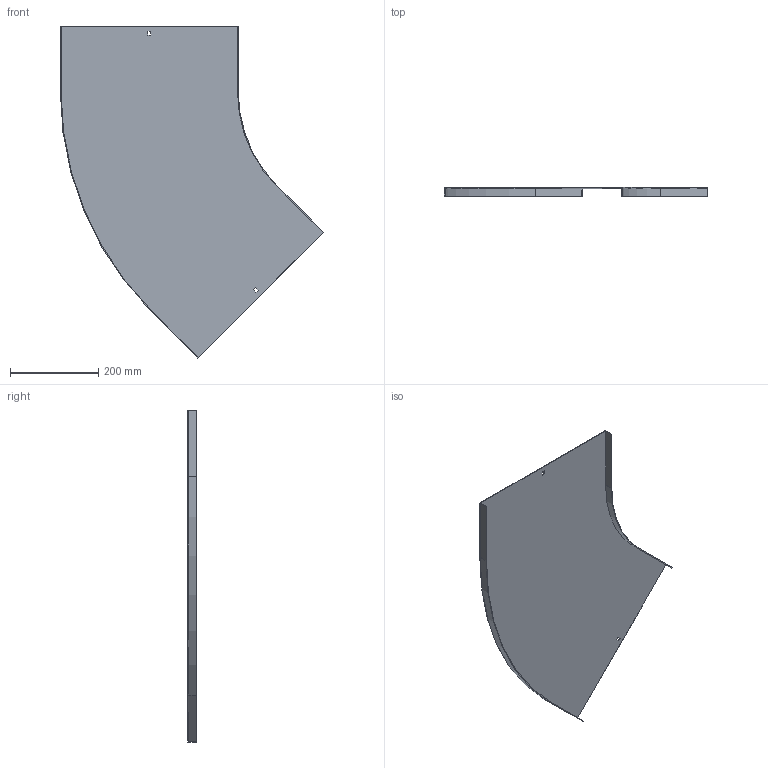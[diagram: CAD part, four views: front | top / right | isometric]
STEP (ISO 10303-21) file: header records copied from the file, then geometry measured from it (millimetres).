
FILE_DESCRIPTION (( 'STEP AP214' ), '1' );
FILE_NAME ('A2_11N3R400.step', '2025-02-21T10:50:34', ( '' ), ( '' ), 'SwSTEP 2.0', 'SolidWorks 2023', '' );
FILE_SCHEMA (( 'AUTOMOTIVE_DESIGN' ));
Length unit declared in the file: millimetre
Products named in the file (1): A2_11N3R400
Bounding box: 596.49 x 20 x 752.1 mm (x, y, z)
Volume: 457005.9 mm3; surface area: 612832.3 mm2
Topology: 1 solids, 1 shells, 26 faces, 72 edges, 48 vertices
Faces by surface type: plane 22, cylinder 4
Entity records: 855 total; most frequent: CARTESIAN_POINT 147, ORIENTED_EDGE 144, DIRECTION 134, EDGE_CURVE 72, LINE 64, VECTOR 64, VERTEX_POINT 48, AXIS2_PLACEMENT_3D 35
